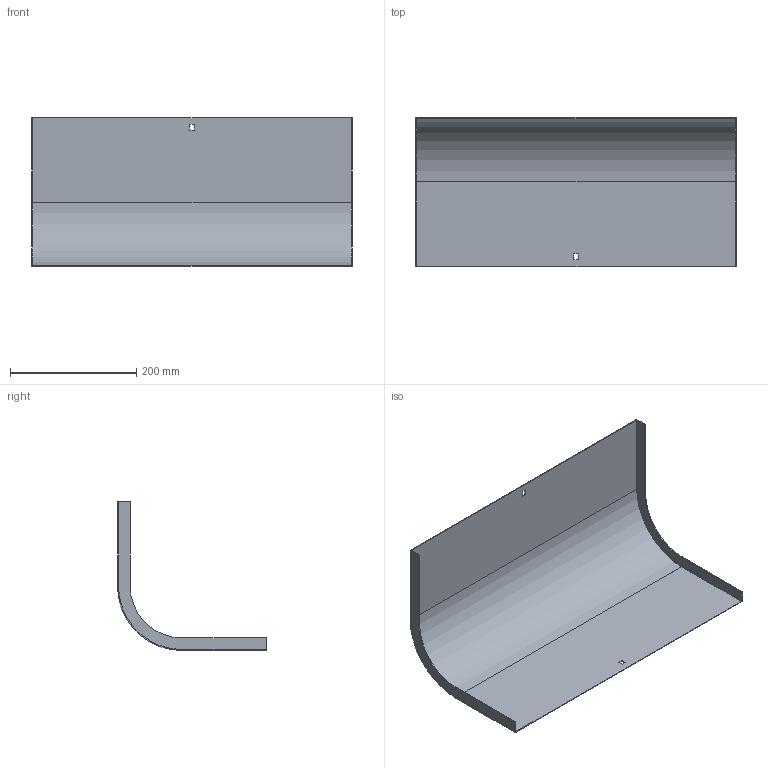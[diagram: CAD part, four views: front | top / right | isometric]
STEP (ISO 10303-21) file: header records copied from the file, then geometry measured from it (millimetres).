
FILE_DESCRIPTION (( 'STEP AP214' ), '1' );
FILE_NAME ('33G1D500.step', '2025-02-21T12:43:59', ( '' ), ( '' ), 'SwSTEP 2.0', 'SolidWorks 2023', '' );
FILE_SCHEMA (( 'AUTOMOTIVE_DESIGN' ));
Length unit declared in the file: millimetre
Products named in the file (1): 33G1D500
Bounding box: 507 x 235.5 x 235.5 mm (x, y, z)
Volume: 346779 mm3; surface area: 465288.6 mm2
Topology: 1 solids, 1 shells, 26 faces, 72 edges, 48 vertices
Faces by surface type: plane 22, cylinder 4
Entity records: 855 total; most frequent: CARTESIAN_POINT 147, ORIENTED_EDGE 144, DIRECTION 134, EDGE_CURVE 72, VECTOR 64, LINE 64, VERTEX_POINT 48, AXIS2_PLACEMENT_3D 35
